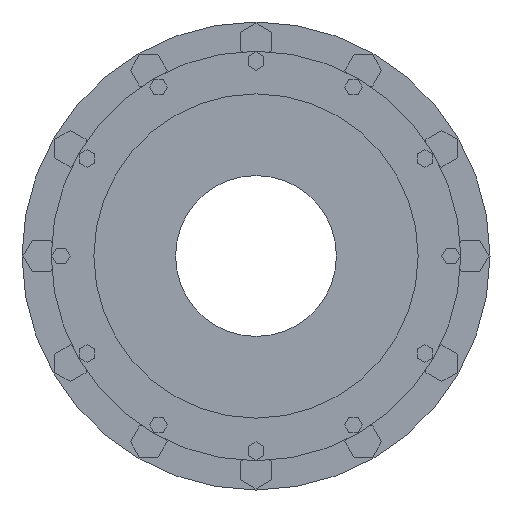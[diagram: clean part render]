
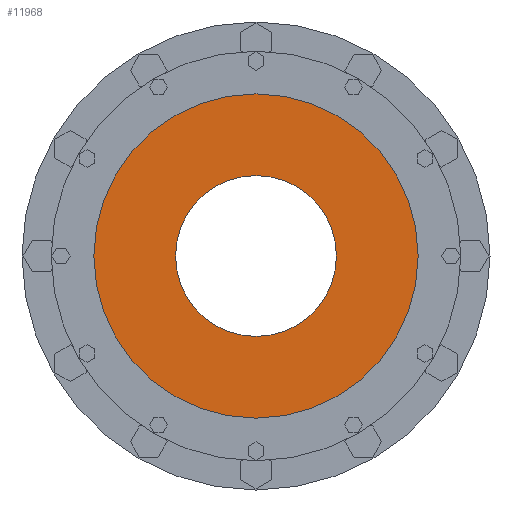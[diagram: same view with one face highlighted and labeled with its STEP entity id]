
A CAD part, left-side view. The second image highlights one B-rep face of the part: STEP entity #11968.
In plain terms, the highlighted planar face has unit normal (-1, 0, 0).
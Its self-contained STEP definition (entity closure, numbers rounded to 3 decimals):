
#11666=CARTESIAN_POINT('',(-452.5,0.,0.));
#11667=DIRECTION('',(1.,0.,0.));
#11668=DIRECTION('',(0.,1.,0.));
#11669=AXIS2_PLACEMENT_3D('',#11666,#11667,#11668);
#11745=CARTESIAN_POINT('',(-452.5,0.,0.));
#11746=DIRECTION('',(-1.,0.,0.));
#11747=DIRECTION('',(0.,1.,0.));
#11748=AXIS2_PLACEMENT_3D('',#11745,#11746,#11747);
#11750=CARTESIAN_POINT('',(-452.5,0.,0.));
#11751=DIRECTION('',(1.,0.,0.));
#11752=DIRECTION('',(0.,1.,0.));
#11753=AXIS2_PLACEMENT_3D('',#11750,#11751,#11752);
#11764=CARTESIAN_POINT('',(-452.5,0.,0.));
#11765=DIRECTION('',(-1.,0.,0.));
#11766=DIRECTION('',(0.,1.,0.));
#11767=AXIS2_PLACEMENT_3D('',#11764,#11765,#11766);
#11773=CARTESIAN_POINT('',(-452.5,165.,0.));
#11774=CARTESIAN_POINT('',(-452.5,-165.,0.));
#11775=VERTEX_POINT('',#11773);
#11776=VERTEX_POINT('',#11774);
#11777=CARTESIAN_POINT('',(-452.5,332.5,0.));
#11778=CARTESIAN_POINT('',(-452.5,-332.5,0.));
#11779=VERTEX_POINT('',#11777);
#11780=VERTEX_POINT('',#11778);
#11954=CARTESIAN_POINT('',(-452.5,0.,0.));
#11955=DIRECTION('',(1.,0.,0.));
#11956=DIRECTION('',(0.,-1.,0.));
#11957=AXIS2_PLACEMENT_3D('',#11954,#11955,#11956);
#11958=PLANE('',#11957);
#11959=ORIENTED_EDGE('',*,*,#11936,.F.);
#11960=ORIENTED_EDGE('',*,*,#11949,.T.);
#11961=EDGE_LOOP('',(#11959,#11960));
#11962=FACE_OUTER_BOUND('',#11961,.F.);
#11963=ORIENTED_EDGE('',*,*,#11814,.F.);
#11965=ORIENTED_EDGE('',*,*,#11964,.T.);
#11966=EDGE_LOOP('',(#11963,#11965));
#11967=FACE_BOUND('',#11966,.F.);
#11968=ADVANCED_FACE('',(#11962,#11967),#11958,.F.);
#11670=CIRCLE('',#11669,165.);
#11749=CIRCLE('',#11748,332.5);
#11754=CIRCLE('',#11753,332.5);
#11768=CIRCLE('',#11767,165.);
#11814=EDGE_CURVE('',#11775,#11776,#11670,.T.);
#11936=EDGE_CURVE('',#11779,#11780,#11749,.T.);
#11949=EDGE_CURVE('',#11779,#11780,#11754,.T.);
#11964=EDGE_CURVE('',#11775,#11776,#11768,.T.);
